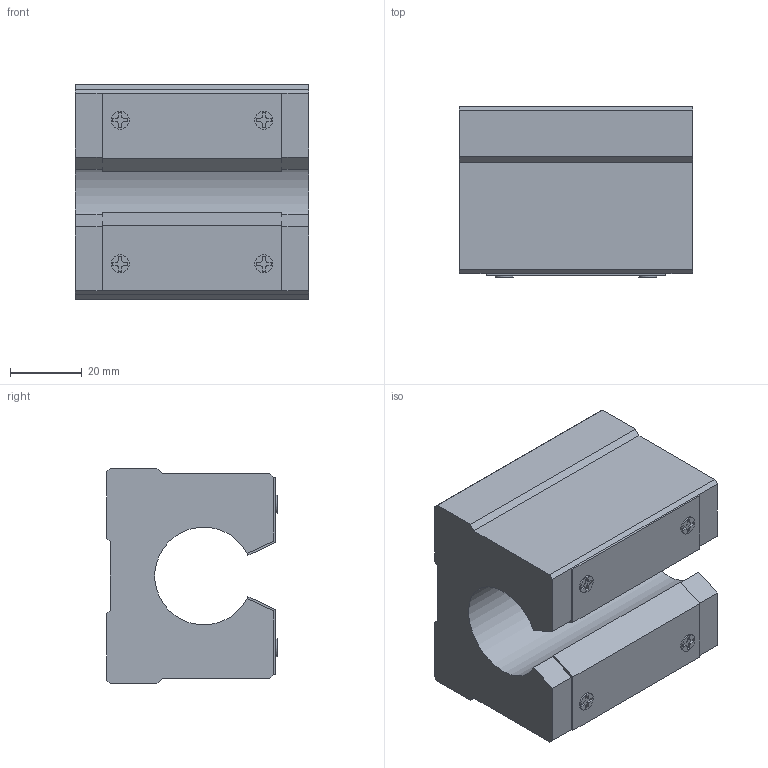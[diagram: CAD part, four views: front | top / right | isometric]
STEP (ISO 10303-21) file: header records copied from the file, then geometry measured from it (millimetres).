
FILE_DESCRIPTION( ( 'STEP AP203' ), '1' );
FILE_NAME( 'e:/temp/worker_73/temp/exporttempdir_5228_2099_NeCh6/format_0/SBR25UU.stp', '2021-06-07T03:10:55', ( 'License CC BY-ND 4.0' ), ( 'CADENAS' ), ' ', 'PARTsolutions', ' ' );
FILE_SCHEMA( ( 'CONFIG_CONTROL_DESIGN' ) );
Length unit declared in the file: millimetre
Products named in the file (1): _SBR25UU
Bounding box: 65 x 47.5 x 60 mm (x, y, z)
Volume: 129459.3 mm3; surface area: 23121.9 mm2
Topology: 1 solids, 1 shells, 124 faces, 322 edges, 212 vertices
Faces by surface type: plane 95, cylinder 25, cone 4
Full cylindrical faces by diameter (mm): 4.917 x4, 5 x4
Entity records: 3744 total; most frequent: CARTESIAN_POINT 647, ORIENTED_EDGE 620, DIRECTION 618, EDGE_CURVE 310, LINE 252, VECTOR 252, VERTEX_POINT 212, AXIS2_PLACEMENT_3D 183
